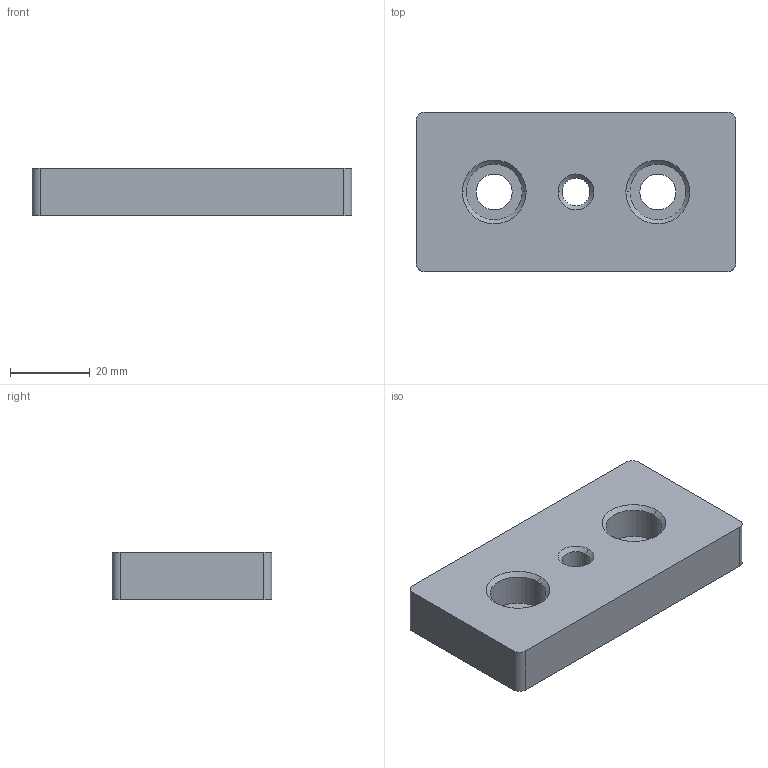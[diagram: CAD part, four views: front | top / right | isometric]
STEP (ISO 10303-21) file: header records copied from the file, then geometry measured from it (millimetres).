
FILE_DESCRIPTION (( 'STEP AP203' ), '1' );
FILE_NAME ('7002.STEP', '2016-04-03T11:52:55', ( '' ), ( '' ), 'SwSTEP 2.0', 'SolidWorks 2014', '' );
FILE_SCHEMA (( 'CONFIG_CONTROL_DESIGN' ));
Length unit declared in the file: millimetre
Products named in the file (1): 7002
Bounding box: 80 x 40 x 12 mm (x, y, z)
Volume: 34643.9 mm3; surface area: 10023.1 mm2
Topology: 1 solids, 1 shells, 34 faces, 78 edges, 48 vertices
Faces by surface type: cylinder 14, cone 12, plane 8
Entity records: 1055 total; most frequent: DIRECTION 188, CARTESIAN_POINT 161, ORIENTED_EDGE 156, EDGE_CURVE 78, AXIS2_PLACEMENT_3D 75, VERTEX_POINT 48, EDGE_LOOP 42, CIRCLE 40
